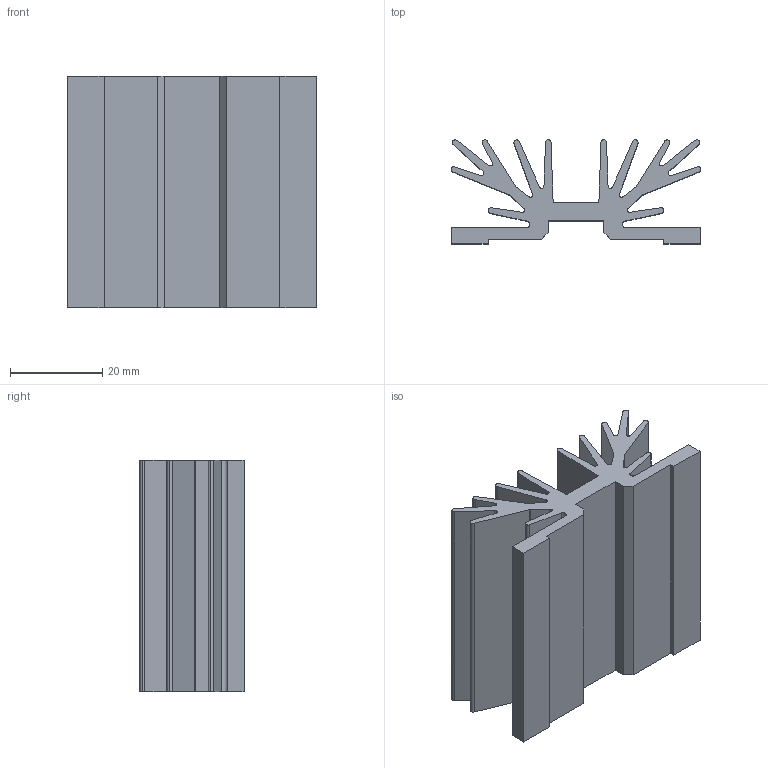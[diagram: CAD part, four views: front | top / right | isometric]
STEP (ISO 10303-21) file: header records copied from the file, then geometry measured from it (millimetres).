
FILE_DESCRIPTION (( 'STEP AP203' ), '1' );
FILE_NAME ('PR 134-50.step', '2002-10-20T23:24:33', ( 'Wolfgang Müller' ), ( 'DPS' ), 'SwSTEP 2.0', 'SolidWorks 2002264', '' );
FILE_SCHEMA (( 'CONFIG_CONTROL_DESIGN' ));
Length unit declared in the file: millimetre
Products named in the file (1): PR 134-50
Bounding box: 54 x 22.5 x 50 mm (x, y, z)
Volume: 24124 mm3; surface area: 20551.8 mm2
Topology: 1 solids, 1 shells, 84 faces, 246 edges, 164 vertices
Faces by surface type: plane 46, cylinder 38
Entity records: 2883 total; most frequent: CARTESIAN_POINT 495, ORIENTED_EDGE 492, DIRECTION 492, EDGE_CURVE 246, LINE 170, VECTOR 170, VERTEX_POINT 164, AXIS2_PLACEMENT_3D 161
